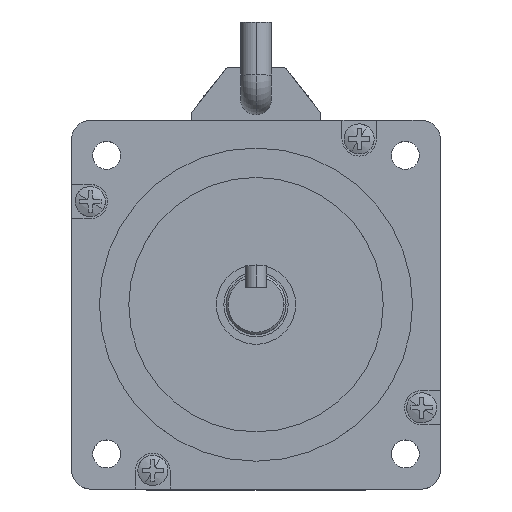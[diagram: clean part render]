
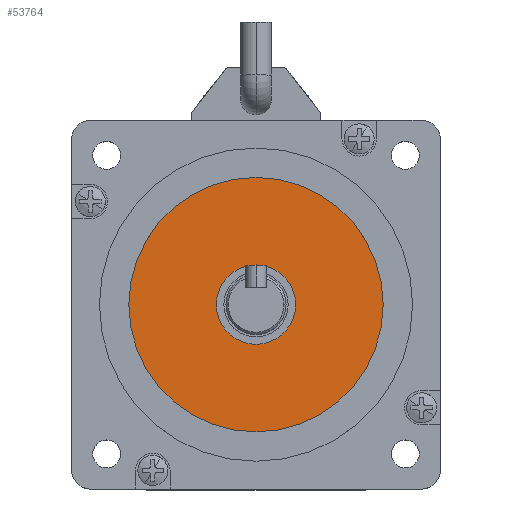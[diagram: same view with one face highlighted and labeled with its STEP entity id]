
A CAD part, top view. The second image highlights one B-rep face of the part: STEP entity #53764.
In plain terms, the highlighted planar face has unit normal (0, 0, 1).
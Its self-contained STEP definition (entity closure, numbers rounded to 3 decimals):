
#288 = VERTEX_POINT ( 'NONE', #139049 ) ;
#3509 = DIRECTION ( 'NONE',  ( 0., 0., 1. ) ) ;
#6360 = CARTESIAN_POINT ( 'NONE',  ( -15.03, 0.378, -7.5 ) ) ;
#8705 = PLANE ( 'NONE',  #92942 ) ;
#15515 = EDGE_LOOP ( 'NONE', ( #125633, #115578 ) ) ;
#17847 = DIRECTION ( 'NONE',  ( 1., 0., 0. ) ) ;
#22406 = CARTESIAN_POINT ( 'NONE',  ( -15.03, 0.378, -7.5 ) ) ;
#27841 = DIRECTION ( 'NONE',  ( 0., 0., 1. ) ) ;
#33878 = DIRECTION ( 'NONE',  ( 1., 0., 0. ) ) ;
#49721 = EDGE_LOOP ( 'NONE', ( #104167, #135846 ) ) ;
#53764 = ADVANCED_FACE ( 'NONE', ( #83210, #140517 ), #8705, .T. ) ;
#54748 = DIRECTION ( 'NONE',  ( 1., 0., 0. ) ) ;
#59109 = EDGE_CURVE ( 'NONE', #288, #79774, #61558, .T. ) ;
#60309 = AXIS2_PLACEMENT_3D ( 'NONE', #71992, #3509, #83498 ) ;
#61558 = CIRCLE ( 'NONE', #68611, 29.653 ) ;
#64336 = AXIS2_PLACEMENT_3D ( 'NONE', #96241, #27841, #107788 ) ;
#65703 = CARTESIAN_POINT ( 'NONE',  ( -15.03, 0.378, -7.5 ) ) ;
#68611 = AXIS2_PLACEMENT_3D ( 'NONE', #6360, #86344, #17847 ) ;
#71992 = CARTESIAN_POINT ( 'NONE',  ( -15.03, 0.378, -7.5 ) ) ;
#79774 = VERTEX_POINT ( 'NONE', #110381 ) ;
#83210 = FACE_BOUND ( 'NONE', #49721, .T. ) ;
#83498 = DIRECTION ( 'NONE',  ( 1., 0., 0. ) ) ;
#86292 = AXIS2_PLACEMENT_3D ( 'NONE', #22406, #102343, #33878 ) ;
#86344 = DIRECTION ( 'NONE',  ( 0., 0., 1. ) ) ;
#87054 = EDGE_CURVE ( 'NONE', #108744, #97189, #131661, .T. ) ;
#92942 = AXIS2_PLACEMENT_3D ( 'NONE', #65703, #123246, #54748 ) ;
#94118 = EDGE_CURVE ( 'NONE', #97189, #108744, #99078, .T. ) ;
#96241 = CARTESIAN_POINT ( 'NONE',  ( -15.03, 0.378, -7.5 ) ) ;
#97189 = VERTEX_POINT ( 'NONE', #140234 ) ;
#99078 = CIRCLE ( 'NONE', #60309, 9.25 ) ;
#102343 = DIRECTION ( 'NONE',  ( 0., 0., 1. ) ) ;
#103491 = CIRCLE ( 'NONE', #86292, 29.653 ) ;
#104167 = ORIENTED_EDGE ( 'NONE', *, *, #94118, .F. ) ;
#107788 = DIRECTION ( 'NONE',  ( 1., 0., 0. ) ) ;
#108744 = VERTEX_POINT ( 'NONE', #115976 ) ;
#110381 = CARTESIAN_POINT ( 'NONE',  ( -44.683, 0.378, -7.5 ) ) ;
#113112 = EDGE_CURVE ( 'NONE', #79774, #288, #103491, .T. ) ;
#115578 = ORIENTED_EDGE ( 'NONE', *, *, #113112, .T. ) ;
#115976 = CARTESIAN_POINT ( 'NONE',  ( -24.28, 0.378, -7.5 ) ) ;
#123246 = DIRECTION ( 'NONE',  ( 0., 0., 1. ) ) ;
#125633 = ORIENTED_EDGE ( 'NONE', *, *, #59109, .T. ) ;
#131661 = CIRCLE ( 'NONE', #64336, 9.25 ) ;
#135846 = ORIENTED_EDGE ( 'NONE', *, *, #87054, .F. ) ;
#139049 = CARTESIAN_POINT ( 'NONE',  ( 14.622, 0.378, -7.5 ) ) ;
#140234 = CARTESIAN_POINT ( 'NONE',  ( -5.78, 0.378, -7.5 ) ) ;
#140517 = FACE_OUTER_BOUND ( 'NONE', #15515, .T. ) ;
